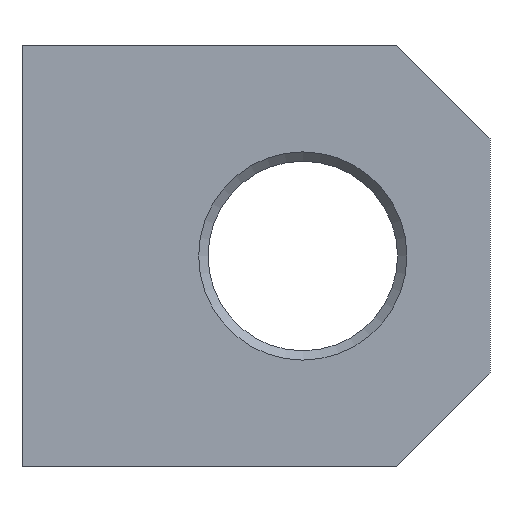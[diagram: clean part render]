
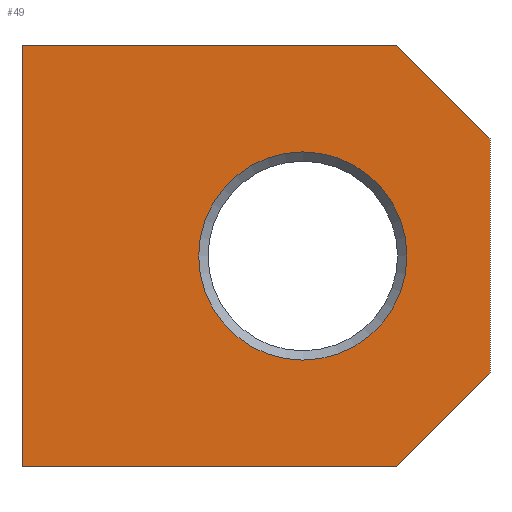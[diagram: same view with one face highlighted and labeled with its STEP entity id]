
A CAD part, front view. The second image highlights one B-rep face of the part: STEP entity #49.
In plain terms, the highlighted planar face has unit normal (0, -1, 0).
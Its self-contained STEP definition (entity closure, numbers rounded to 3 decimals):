
#49 = ADVANCED_FACE( '', ( #70, #71 ), #72, .F. );
#70 = FACE_BOUND( '', #107, .T. );
#71 = FACE_OUTER_BOUND( '', #108, .T. );
#72 = PLANE( '', #109 );
#107 = EDGE_LOOP( '', ( #155 ) );
#108 = EDGE_LOOP( '', ( #156, #157, #158, #159, #160, #161 ) );
#109 = AXIS2_PLACEMENT_3D( '', #162, #163, #164 );
#155 = ORIENTED_EDGE( '', *, *, #238, .T. );
#156 = ORIENTED_EDGE( '', *, *, #239, .F. );
#157 = ORIENTED_EDGE( '', *, *, #240, .T. );
#158 = ORIENTED_EDGE( '', *, *, #241, .T. );
#159 = ORIENTED_EDGE( '', *, *, #242, .T. );
#160 = ORIENTED_EDGE( '', *, *, #243, .F. );
#161 = ORIENTED_EDGE( '', *, *, #244, .T. );
#162 = CARTESIAN_POINT( '', ( 50., -12.5, 22.5 ) );
#163 = DIRECTION( '', ( 0., 1., 0. ) );
#164 = DIRECTION( '', ( 0., 0., 1. ) );
#238 = EDGE_CURVE( '', #272, #272, #273, .T. );
#239 = EDGE_CURVE( '', #274, #275, #276, .T. );
#240 = EDGE_CURVE( '', #274, #277, #278, .T. );
#241 = EDGE_CURVE( '', #277, #279, #280, .T. );
#242 = EDGE_CURVE( '', #279, #281, #282, .T. );
#243 = EDGE_CURVE( '', #283, #281, #284, .T. );
#244 = EDGE_CURVE( '', #283, #275, #285, .T. );
#272 = VERTEX_POINT( '', #322 );
#273 = CIRCLE( '', #323, 11.125 );
#274 = VERTEX_POINT( '', #324 );
#275 = VERTEX_POINT( '', #325 );
#276 = LINE( '', #326, #327 );
#277 = VERTEX_POINT( '', #328 );
#278 = LINE( '', #329, #330 );
#279 = VERTEX_POINT( '', #331 );
#280 = LINE( '', #332, #333 );
#281 = VERTEX_POINT( '', #334 );
#282 = LINE( '', #335, #336 );
#283 = VERTEX_POINT( '', #337 );
#284 = LINE( '', #338, #339 );
#285 = LINE( '', #340, #341 );
#322 = CARTESIAN_POINT( '', ( 30., -12.5, 11.125 ) );
#323 = AXIS2_PLACEMENT_3D( '', #375, #376, #377 );
#324 = CARTESIAN_POINT( '', ( 50., -12.5, 12.5 ) );
#325 = CARTESIAN_POINT( '', ( 50., -12.5, -12.5 ) );
#326 = CARTESIAN_POINT( '', ( 50., -12.5, 22.5 ) );
#327 = VECTOR( '', #378, 1000. );
#328 = CARTESIAN_POINT( '', ( 40., -12.5, 22.5 ) );
#329 = CARTESIAN_POINT( '', ( 50., -12.5, 12.5 ) );
#330 = VECTOR( '', #379, 1000. );
#331 = CARTESIAN_POINT( '', ( 0., -12.5, 22.5 ) );
#332 = CARTESIAN_POINT( '', ( 50., -12.5, 22.5 ) );
#333 = VECTOR( '', #380, 1000. );
#334 = CARTESIAN_POINT( '', ( 0., -12.5, -22.5 ) );
#335 = CARTESIAN_POINT( '', ( 0., -12.5, 22.5 ) );
#336 = VECTOR( '', #381, 1000. );
#337 = CARTESIAN_POINT( '', ( 40., -12.5, -22.5 ) );
#338 = CARTESIAN_POINT( '', ( 50., -12.5, -22.5 ) );
#339 = VECTOR( '', #382, 1000. );
#340 = CARTESIAN_POINT( '', ( 50., -12.5, -12.5 ) );
#341 = VECTOR( '', #383, 1000. );
#375 = CARTESIAN_POINT( '', ( 30., -12.5, 0. ) );
#376 = DIRECTION( '', ( 0., 1., 0. ) );
#377 = DIRECTION( '', ( 0., 0., 1. ) );
#378 = DIRECTION( '', ( 0., 0., -1. ) );
#379 = DIRECTION( '', ( -0.707, 0., 0.707 ) );
#380 = DIRECTION( '', ( -1., 0., 0. ) );
#381 = DIRECTION( '', ( 0., 0., -1. ) );
#382 = DIRECTION( '', ( -1., 0., 0. ) );
#383 = DIRECTION( '', ( 0.707, 0., 0.707 ) );
